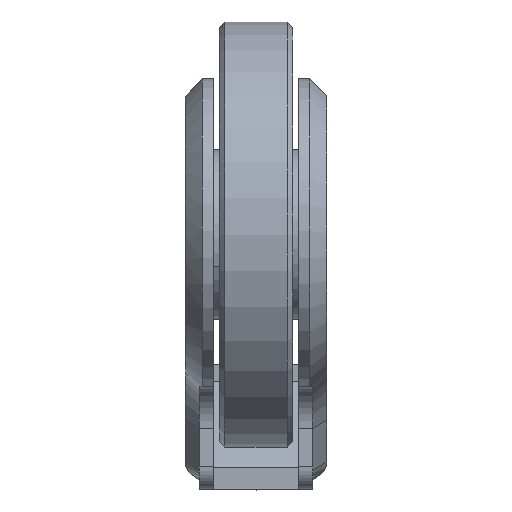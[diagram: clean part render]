
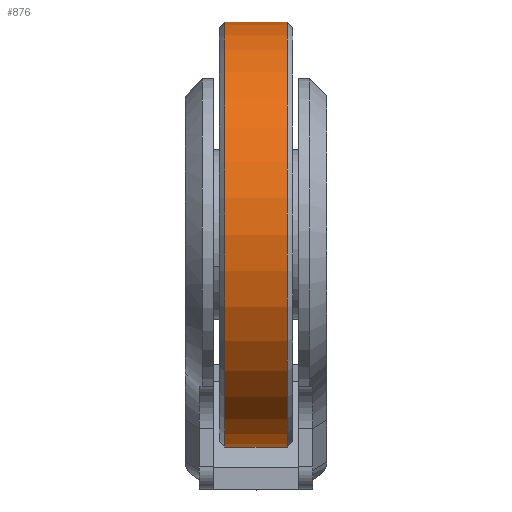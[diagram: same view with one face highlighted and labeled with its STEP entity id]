
A CAD part, front view. The second image highlights one B-rep face of the part: STEP entity #876.
In plain terms, the highlighted cylindrical face has radius 37.5 mm (diameter 75 mm), a partial arc.
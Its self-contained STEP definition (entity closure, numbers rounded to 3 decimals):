
#4 = LINE ( 'NONE', #966, #2482 ) ;
#45 = CYLINDRICAL_SURFACE ( 'NONE', #1465, 37.5 ) ;
#121 = VERTEX_POINT ( 'NONE', #867 ) ;
#190 = CARTESIAN_POINT ( 'NONE',  ( 5.5, 0., 0. ) ) ;
#219 = CARTESIAN_POINT ( 'NONE',  ( 6.5, 0., 37.5 ) ) ;
#410 = EDGE_CURVE ( 'NONE', #2834, #1908, #3174, .T. ) ;
#611 = CARTESIAN_POINT ( 'NONE',  ( -5.5, 0., -37.5 ) ) ;
#800 = DIRECTION ( 'NONE',  ( -1., 0., 0. ) ) ;
#867 = CARTESIAN_POINT ( 'NONE',  ( 5.5, 0., 37.5 ) ) ;
#876 = ADVANCED_FACE ( 'NONE', ( #1487 ), #45, .T. ) ;
#966 = CARTESIAN_POINT ( 'NONE',  ( 6.5, 0., -37.5 ) ) ;
#1010 = VERTEX_POINT ( 'NONE', #2886 ) ;
#1013 = CARTESIAN_POINT ( 'NONE',  ( 6.5, 0., 0. ) ) ;
#1099 = DIRECTION ( 'NONE',  ( 0., 0., 1. ) ) ;
#1138 = ORIENTED_EDGE ( 'NONE', *, *, #1838, .T. ) ;
#1155 = EDGE_CURVE ( 'NONE', #1010, #121, #1843, .T. ) ;
#1426 = LINE ( 'NONE', #219, #2053 ) ;
#1465 = AXIS2_PLACEMENT_3D ( 'NONE', #1013, #1628, #1099 ) ;
#1469 = DIRECTION ( 'NONE',  ( 0., 0., -1. ) ) ;
#1483 = ORIENTED_EDGE ( 'NONE', *, *, #2520, .F. ) ;
#1487 = FACE_OUTER_BOUND ( 'NONE', #2678, .T. ) ;
#1572 = AXIS2_PLACEMENT_3D ( 'NONE', #2325, #2548, #2121 ) ;
#1628 = DIRECTION ( 'NONE',  ( -1., 0., 0. ) ) ;
#1631 = ORIENTED_EDGE ( 'NONE', *, *, #410, .T. ) ;
#1713 = ORIENTED_EDGE ( 'NONE', *, *, #1155, .T. ) ;
#1815 = CARTESIAN_POINT ( 'NONE',  ( -5.5, 0., 37.5 ) ) ;
#1838 = EDGE_CURVE ( 'NONE', #121, #2834, #1426, .T. ) ;
#1843 = CIRCLE ( 'NONE', #2666, 37.5 ) ;
#1908 = VERTEX_POINT ( 'NONE', #611 ) ;
#2053 = VECTOR ( 'NONE', #2416, 1000. ) ;
#2121 = DIRECTION ( 'NONE',  ( 0., 0., -1. ) ) ;
#2325 = CARTESIAN_POINT ( 'NONE',  ( -5.5, 0., 0. ) ) ;
#2416 = DIRECTION ( 'NONE',  ( -1., 0., 0. ) ) ;
#2482 = VECTOR ( 'NONE', #2934, 1000. ) ;
#2520 = EDGE_CURVE ( 'NONE', #1010, #1908, #4, .T. ) ;
#2548 = DIRECTION ( 'NONE',  ( 1., 0., 0. ) ) ;
#2666 = AXIS2_PLACEMENT_3D ( 'NONE', #190, #800, #1469 ) ;
#2678 = EDGE_LOOP ( 'NONE', ( #1483, #1713, #1138, #1631 ) ) ;
#2834 = VERTEX_POINT ( 'NONE', #1815 ) ;
#2886 = CARTESIAN_POINT ( 'NONE',  ( 5.5, 0., -37.5 ) ) ;
#2934 = DIRECTION ( 'NONE',  ( -1., 0., 0. ) ) ;
#3174 = CIRCLE ( 'NONE', #1572, 37.5 ) ;
